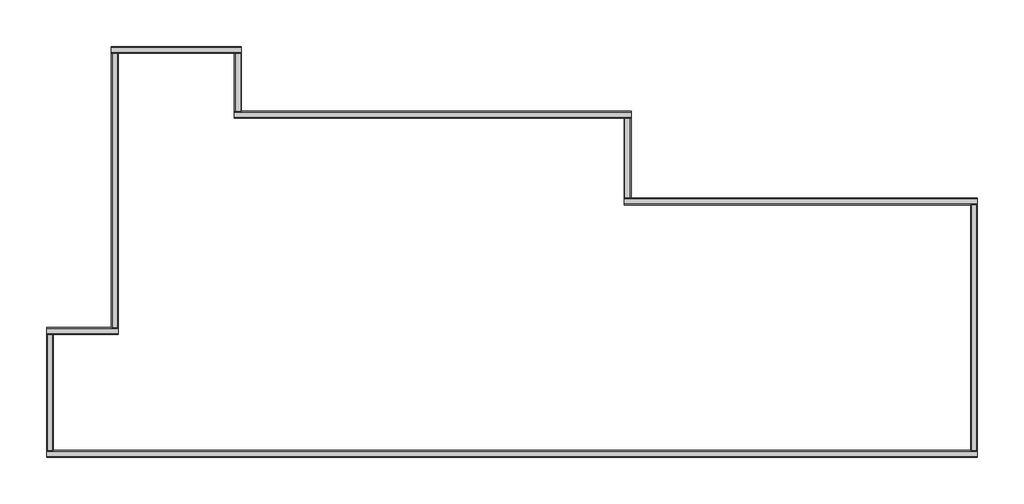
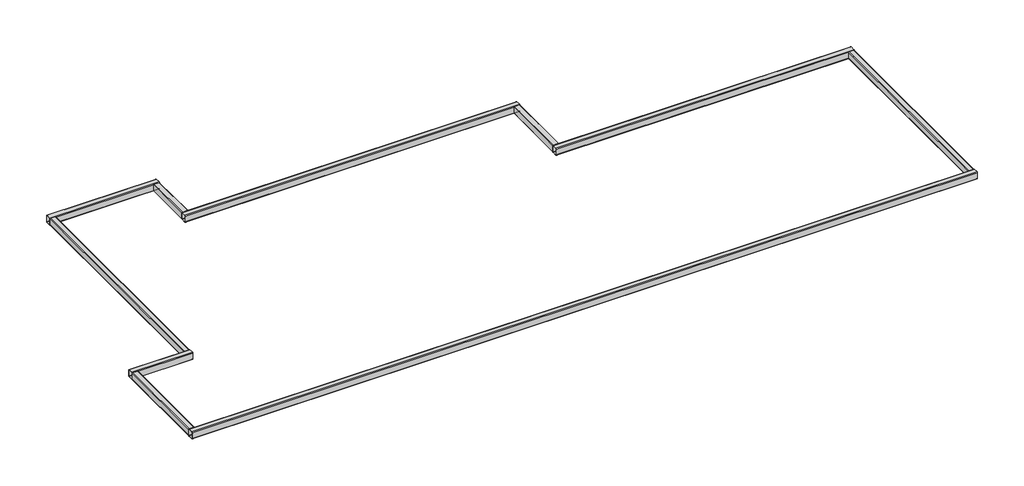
# One storey: 10 beams.
"""IFC4 building model written with IfcOpenShell, lengths in millimetres."""

from ifc_helpers import new_model, si_unit, origin, place, context, project, spatial, transform, mapped, element, save
from components import beam_c6a33905, beam_8ed5c4f5, beam_e48d803c, beam_cc71b6d1, beam_d1049bad, beam_3270b68f, beam_93301dd0, beam_96b021a9, beam_0f3894a2, beam_69299123

model = new_model("IFC4")

# Units and contexts
model_context = context("Model", 3, world=origin())
ifc_project = project(units=[si_unit("LENGTHUNIT", "METRE", prefix="MILLI")], contexts=[model_context])

# Site, building, storey
site = spatial("IfcSite", under=ifc_project)
building = spatial("IfcBuilding", under=site)
storey = spatial("IfcBuildingStorey", under=building, Name="Парапет", Elevation=6025.0)

# Beams
placement = place(None, origin())
beam_shape = beam_c6a33905(model_context)
element("IfcBeam", 1, ObjectType="Труба прямоугольного сечения (ТУ 67-2287-80) Балки : труба200x160x8", at=placement, inside=storey, context=model_context, shape_type="MappedRepresentation", body=[
    mapped(beam_shape, transform((13420.0578348, 6960.2353552, 5925.0), x_axis=(0.0, 1.0, 0.0), y_axis=(-1.0, 0.0, 0.0), z_axis=(0.0, 0.0, 1.0))),
])
beam_2_shape = beam_8ed5c4f5(model_context)
element("IfcBeam", 2, ObjectType="Труба прямоугольного сечения (ТУ 67-2287-80) Балки : труба200x160x8", at=placement, inside=storey, context=model_context, shape_type="MappedRepresentation", body=[
    mapped(beam_2_shape, transform((17460.0289174, 5920.0, 5925.0), x_axis=(1.0, 0.0, 0.0), y_axis=(0.0, 1.0, 0.0), z_axis=(0.0, 0.0, 1.0))),
])
beam_3_shape = beam_e48d803c(model_context)
element("IfcBeam", 3, ObjectType="Труба прямоугольного сечения (ТУ 67-2287-80) Балки : труба200x160x8", at=placement, inside=storey, context=model_context, shape_type="MappedRepresentation", body=[
    mapped(beam_3_shape, transform((10790.0, 80.0, 5925.0), x_axis=(1.0, 0.0, 0.0), y_axis=(0.0, 1.0, 0.0), z_axis=(0.0, 0.0, 1.0))),
])
beam_4_shape = beam_cc71b6d1(model_context)
element("IfcBeam", 4, ObjectType="Труба прямоугольного сечения (ТУ 67-2287-80) Балки : труба200x160x8", at=placement, inside=storey, context=model_context, shape_type="MappedRepresentation", body=[
    mapped(beam_4_shape, transform((21420.0, 2959.8363519, 5925.0), x_axis=(0.0, 1.0, 0.0), y_axis=(-1.0, 0.0, 0.0), z_axis=(0.0, 0.0, 1.0))),
])
beam_5_shape = beam_d1049bad(model_context)
element("IfcBeam", 5, ObjectType="Труба прямоугольного сечения (ТУ 67-2287-80) Балки : труба200x160x8", at=placement, inside=storey, context=model_context, shape_type="MappedRepresentation", body=[
    mapped(beam_5_shape, transform((80.0, 1458.6225829, 5925.0), x_axis=(0.0, 1.0, 0.0), y_axis=(-1.0, 0.0, 0.0), z_axis=(0.0, 0.0, 1.0))),
])
beam_6_shape = beam_3270b68f(model_context)
element("IfcBeam", 6, ObjectType="Труба прямоугольного сечения (ТУ 67-2287-80) Балки : труба200x160x8", at=placement, inside=storey, context=model_context, shape_type="MappedRepresentation", body=[
    mapped(beam_6_shape, transform((790.0, 2919.9422954, 5925.0), x_axis=(1.0, 0.0, 0.0), y_axis=(0.0, 1.0, 0.0), z_axis=(0.0, 0.0, 1.0))),
])
beam_7_shape = beam_93301dd0(model_context)
element("IfcBeam", 7, ObjectType="Труба прямоугольного сечения (ТУ 67-2287-80) Балки : труба200x160x8", at=placement, inside=storey, context=model_context, shape_type="MappedRepresentation", body=[
    mapped(beam_7_shape, transform((1580.0, 6169.9422954, 5925.0), x_axis=(0.0, 1.0, 0.0), y_axis=(-1.0, 0.0, 0.0), z_axis=(0.0, 0.0, 1.0))),
])
beam_8_shape = beam_96b021a9(model_context)
element("IfcBeam", 8, ObjectType="Труба прямоугольного сечения (ТУ 67-2287-80) Балки : труба200x160x8", at=placement, inside=storey, context=model_context, shape_type="MappedRepresentation", body=[
    mapped(beam_8_shape, transform((8920.0433761, 7920.0, 5925.0), x_axis=(1.0, 0.0, 0.0), y_axis=(0.0, 1.0, 0.0), z_axis=(0.0, 0.0, 1.0))),
])
beam_9_shape = beam_0f3894a2(model_context)
element("IfcBeam", 9, ObjectType="Труба прямоугольного сечения (ТУ 67-2287-80) Балки : труба200x160x8", at=placement, inside=storey, context=model_context, shape_type="MappedRepresentation", body=[
    mapped(beam_9_shape, transform((4420.0289174, 8657.5, 5925.0), x_axis=(0.0, 1.0, 0.0), y_axis=(-1.0, 0.0, 0.0), z_axis=(0.0, 0.0, 1.0))),
])
beam_10_shape = beam_69299123(model_context)
element("IfcBeam", 10, ObjectType="Труба прямоугольного сечения (ТУ 67-2287-80) Балки : труба200x160x8", at=placement, inside=storey, context=model_context, shape_type="MappedRepresentation", body=[
    mapped(beam_10_shape, transform((3000.0, 9419.9422954, 5925.0), x_axis=(1.0, 0.0, 0.0), y_axis=(0.0, 1.0, 0.0), z_axis=(0.0, 0.0, 1.0))),
])

save(model, "model.ifc")
